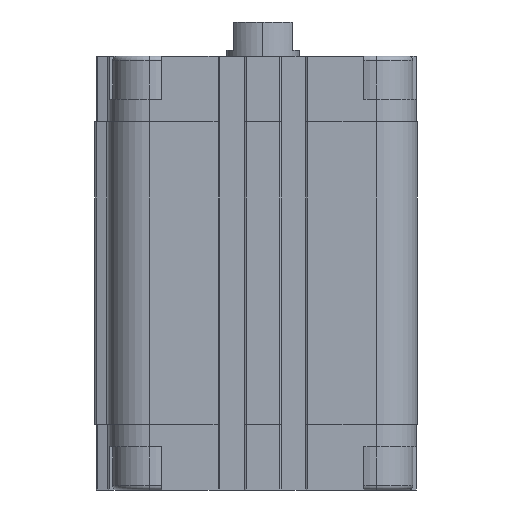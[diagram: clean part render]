
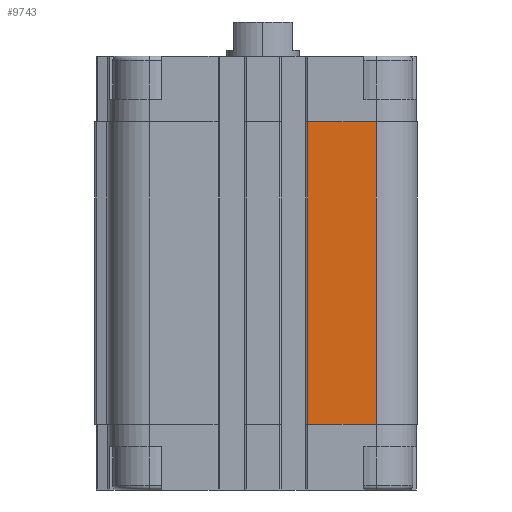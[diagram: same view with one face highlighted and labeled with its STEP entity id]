
A CAD part, left-side view. The second image highlights one B-rep face of the part: STEP entity #9743.
In plain terms, the highlighted planar face has unit normal (-1, 0, 0).
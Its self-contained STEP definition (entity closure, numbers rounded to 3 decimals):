
#1070 = CARTESIAN_POINT ( 'NONE',  ( -34., -25., -81. ) ) ;
#1129 = CARTESIAN_POINT ( 'NONE',  ( -34., -9.85, -14.5 ) ) ;
#1463 = ORIENTED_EDGE ( 'NONE', *, *, #8668, .F. ) ;
#2111 = VECTOR ( 'NONE', #21418, 1000. ) ;
#3029 = LINE ( 'NONE', #1129, #11821 ) ;
#3239 = VECTOR ( 'NONE', #4699, 1000. ) ;
#3732 = ORIENTED_EDGE ( 'NONE', *, *, #21878, .F. ) ;
#4699 = DIRECTION ( 'NONE',  ( 0., 0., 1. ) ) ;
#5446 = VERTEX_POINT ( 'NONE', #10576 ) ;
#5942 = EDGE_CURVE ( 'NONE', #16049, #10120, #9821, .T. ) ;
#5954 = CARTESIAN_POINT ( 'NONE',  ( -34., -25., -14.5 ) ) ;
#6183 = DIRECTION ( 'NONE',  ( 0., -1., 0. ) ) ;
#8293 = CARTESIAN_POINT ( 'NONE',  ( -34., -9.85, -81. ) ) ;
#8399 = AXIS2_PLACEMENT_3D ( 'NONE', #19271, #10943, #21187 ) ;
#8414 = VERTEX_POINT ( 'NONE', #18905 ) ;
#8668 = EDGE_CURVE ( 'NONE', #5446, #10120, #3029, .T. ) ;
#9284 = VECTOR ( 'NONE', #6183, 1000. ) ;
#9444 = LINE ( 'NONE', #16298, #9284 ) ;
#9743 = ADVANCED_FACE ( 'NONE', ( #19487 ), #12630, .T. ) ;
#9821 = LINE ( 'NONE', #1070, #2111 ) ;
#9982 = LINE ( 'NONE', #8293, #3239 ) ;
#10000 = DIRECTION ( 'NONE',  ( 0., -1., 0. ) ) ;
#10120 = VERTEX_POINT ( 'NONE', #5954 ) ;
#10576 = CARTESIAN_POINT ( 'NONE',  ( -34., -9.85, -14.5 ) ) ;
#10943 = DIRECTION ( 'NONE',  ( -1., 0., 0. ) ) ;
#11747 = CARTESIAN_POINT ( 'NONE',  ( -34., -25., -81. ) ) ;
#11821 = VECTOR ( 'NONE', #10000, 1000. ) ;
#12459 = EDGE_LOOP ( 'NONE', ( #1463, #3732, #15656, #19128 ) ) ;
#12630 = PLANE ( 'NONE',  #8399 ) ;
#14046 = EDGE_CURVE ( 'NONE', #8414, #16049, #9444, .T. ) ;
#15656 = ORIENTED_EDGE ( 'NONE', *, *, #14046, .T. ) ;
#16049 = VERTEX_POINT ( 'NONE', #11747 ) ;
#16298 = CARTESIAN_POINT ( 'NONE',  ( -34., -9.85, -81. ) ) ;
#18905 = CARTESIAN_POINT ( 'NONE',  ( -34., -9.85, -81. ) ) ;
#19128 = ORIENTED_EDGE ( 'NONE', *, *, #5942, .T. ) ;
#19271 = CARTESIAN_POINT ( 'NONE',  ( -34., -9.85, -81. ) ) ;
#19487 = FACE_OUTER_BOUND ( 'NONE', #12459, .T. ) ;
#21187 = DIRECTION ( 'NONE',  ( 0., -1., 0. ) ) ;
#21418 = DIRECTION ( 'NONE',  ( 0., 0., 1. ) ) ;
#21878 = EDGE_CURVE ( 'NONE', #8414, #5446, #9982, .T. ) ;
